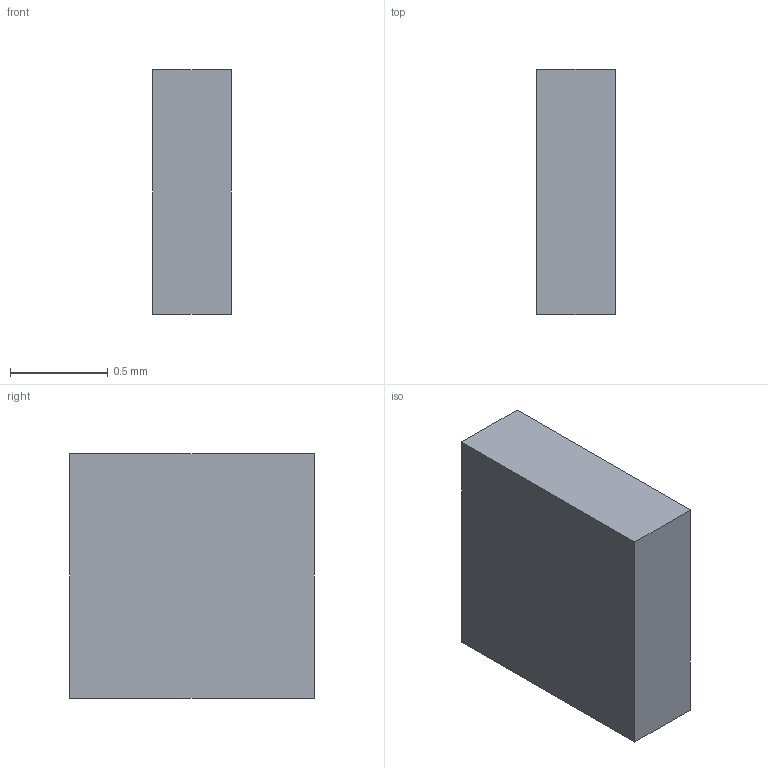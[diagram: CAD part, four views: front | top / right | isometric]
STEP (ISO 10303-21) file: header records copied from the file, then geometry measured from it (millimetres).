
FILE_DESCRIPTION(/* description */ ('STEP AP242 Edition 2','CAx-IF Rec.Pracs.---Representation and Presentation of Product Manufacturing Information (PMI)---4.0---2014-10-13','CAx-IF Rec.Pracs.---3D Tessellated Geometry---0.4---2014-09-14','2;1','CAx-IF Rec.Pracs.---User Defined Attributes---1.5---2016-08-15'),/* implementation_level */ '2;1');
FILE_NAME(/* name */ 'HIRO_Assembly - SMD Capacitor, Configurable, Raspberry Pi Pico-R3_C1',/* time_stamp */ '2026-11-04T05:23:28Z',/* author */ (''),/* organization */ (''),/* preprocessor_version */ 'ST-DEVELOPER v20',/* originating_system */ 'ONSHAPE BY PTC INC, 1.223',/* authorisation */ ' ');
FILE_SCHEMA (('AP242_MANAGED_MODEL_BASED_3D_ENGINEERING_MIM_LF { 1 0 10303 442 3 1 4 }'));
Length unit declared in the file: metre
Products named in the file (1): SMD Capacitor, Configurable, Raspberry Pi Pico-R3_C1
Bounding box: 0.4 x 1.25 x 1.25 mm (x, y, z)
Volume: 0.6 mm3; surface area: 5.1 mm2
Topology: 1 solids, 1 shells, 6 faces, 12 edges, 8 vertices
Faces by surface type: plane 6
Entity records: 178 total; most frequent: CARTESIAN_POINT 27, DIRECTION 26, ORIENTED_EDGE 24, EDGE_CURVE 12, LINE 12, VECTOR 12, VERTEX_POINT 8, AXIS2_PLACEMENT_3D 7
